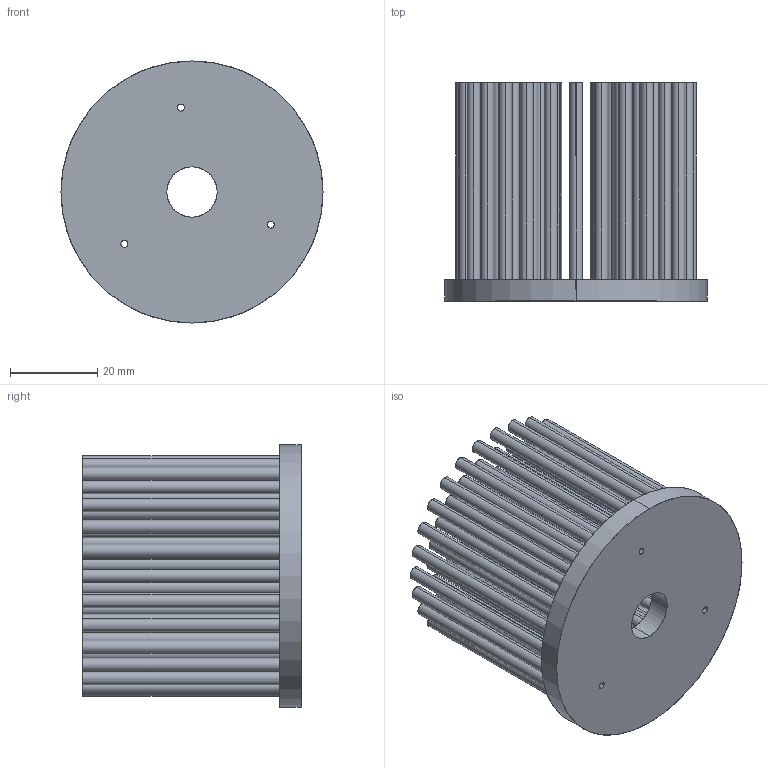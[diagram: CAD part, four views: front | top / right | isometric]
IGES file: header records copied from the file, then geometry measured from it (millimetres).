
Start section: SolidWorks IGES file using analytic representation for surfaces
Global section: file name: C:\Documents and Settings\Administrator\桌面\27-06-2012\M2\XSA-62-M2 (O60mm X 50mm).IGS,1; native system: 5HSolidWorks 2011; preprocessor: SolidWorks 2011; author: Administrator; date: 120627.165645; units: millimetre
Bounding box: 60 x 50 x 60 mm (x, y, z)
Surface area: 41411 mm2 (no closed solid volume)
Topology: 0 solids, 0 shells, 258 faces, 6232 edges, 6232 vertices
Faces by surface type: revolution 174, bspline 84
